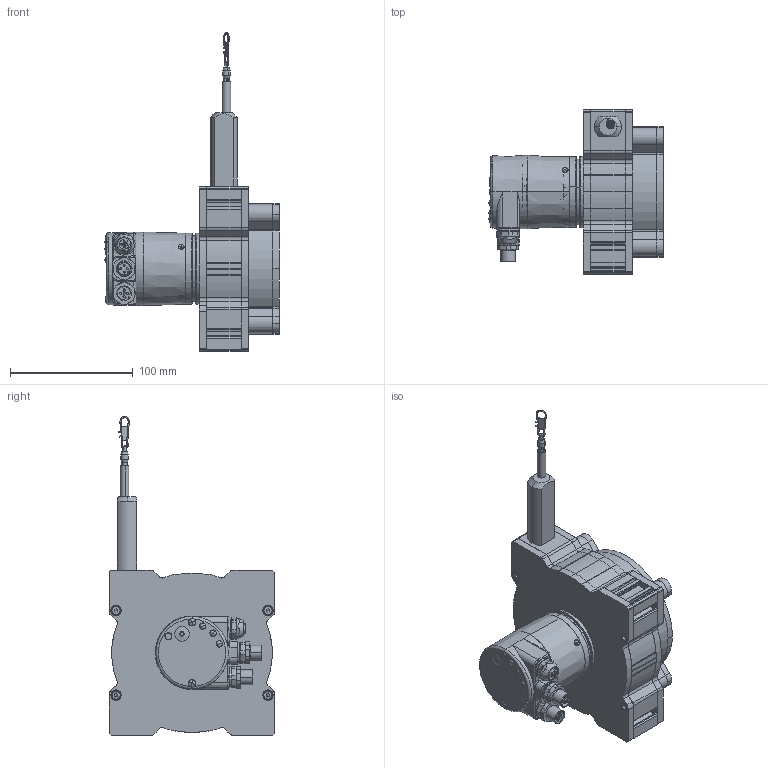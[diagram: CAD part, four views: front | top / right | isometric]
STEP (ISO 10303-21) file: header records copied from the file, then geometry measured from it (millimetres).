
FILE_DESCRIPTION (( 'STEP AP214' ), '1' );
FILE_NAME ('D8.4D1.0800.6832.3113.STEP', '2009-05-12T09:04:56', ( 'admin' ), ( 'Fritz Kübler GmbH' ), 'SwSTEP 2.0', 'SolidWorks 2009', '' );
FILE_SCHEMA (( 'AUTOMOTIVE_DESIGN' ));
Length unit declared in the file: millimetre
Products named in the file (1): D8.4D1.0800.6832.3113
Bounding box: 142.15 x 135 x 260.32 mm (x, y, z)
Volume: 444997 mm3; surface area: 235926.9 mm2
Topology: 38 solids, 39 shells, 2317 faces, 5957 edges, 3769 vertices
Faces by surface type: cylinder 1023, plane 737, cone 309, torus 169, bspline 48, sphere 31
Entity records: 100995 total; most frequent: CARTESIAN_POINT 17704, DIRECTION 12711, ORIENTED_EDGE 11734, EDGE_CURVE 5867, AXIS2_PLACEMENT_3D 5019, VERTEX_POINT 3756, CIRCLE 2749, VECTOR 2673
